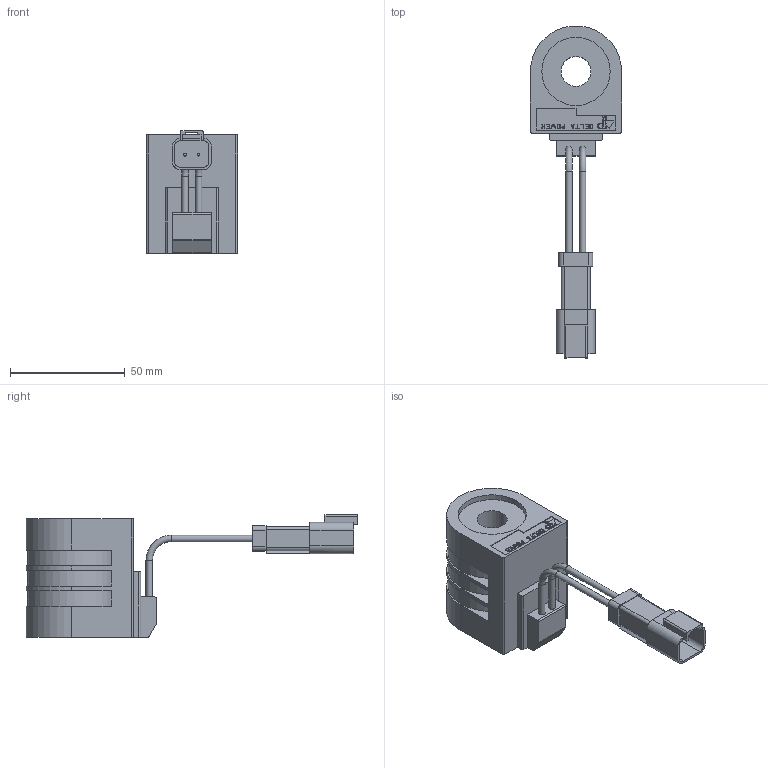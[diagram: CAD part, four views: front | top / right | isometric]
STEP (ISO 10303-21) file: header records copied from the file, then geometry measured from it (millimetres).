
FILE_DESCRIPTION((''),'2;1');
FILE_NAME('U:\Solid model CD\Solid model full\Coils\STEP\DDT.stp','2009-01-16T15:06:02',('Dan'),(''),'Autodesk Inventor 2009','Autodesk Inventor 2009','');
FILE_SCHEMA(('AUTOMOTIVE_DESIGN { 1 0 10303 214 1 1 1 1 }'));
Length unit declared in the file: inch
Products named in the file (1): DDT
Bounding box: 39.62 x 144.38 x 53.47 mm (x, y, z)
Volume: 82870.5 mm3; surface area: 21299.6 mm2
Topology: 13 solids, 13 shells, 294 faces, 782 edges, 517 vertices
Faces by surface type: plane 229, cylinder 60, torus 2, bspline 2, sphere 1
Full cylindrical faces by diameter (mm): 1.252 x1, 2.794 x4, 4.521 x2, 13.005 x1, 29.694 x2
Entity records: 9043 total; most frequent: CARTESIAN_POINT 1624, ORIENTED_EDGE 1516, DIRECTION 1468, EDGE_CURVE 758, VECTOR 634, LINE 634, VERTEX_POINT 510, AXIS2_PLACEMENT_3D 417
